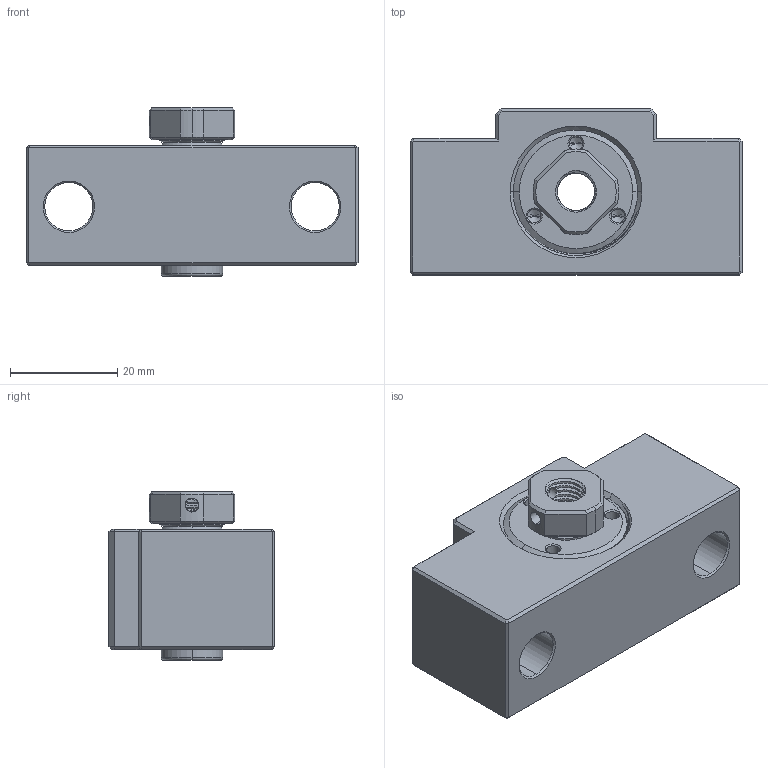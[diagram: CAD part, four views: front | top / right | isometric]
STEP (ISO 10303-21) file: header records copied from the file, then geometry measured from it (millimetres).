
FILE_DESCRIPTION (( 'STEP AP203' ), '1' );
FILE_NAME ('LK08組合圖.STEP', '2010-08-11T11:16:12', ( '' ), ( '' ), 'SwSTEP 2.0', 'SolidWorks 2008', '' );
FILE_SCHEMA (( 'CONFIG_CONTROL_DESIGN' ));
Length unit declared in the file: millimetre
Products named in the file (1): LK08組合圖
Bounding box: 62 x 31 x 31.5 mm (x, y, z)
Volume: 30760.1 mm3; surface area: 18124.8 mm2
Topology: 24 solids, 24 shells, 417 faces, 964 edges, 578 vertices
Faces by surface type: cylinder 122, torus 102, plane 90, cone 58, sphere 28, bspline 17
Entity records: 19132 total; most frequent: CARTESIAN_POINT 10106, DIRECTION 1998, ORIENTED_EDGE 1776, EDGE_CURVE 888, AXIS2_PLACEMENT_3D 859, VERTEX_POINT 536, EDGE_LOOP 462, CIRCLE 458
